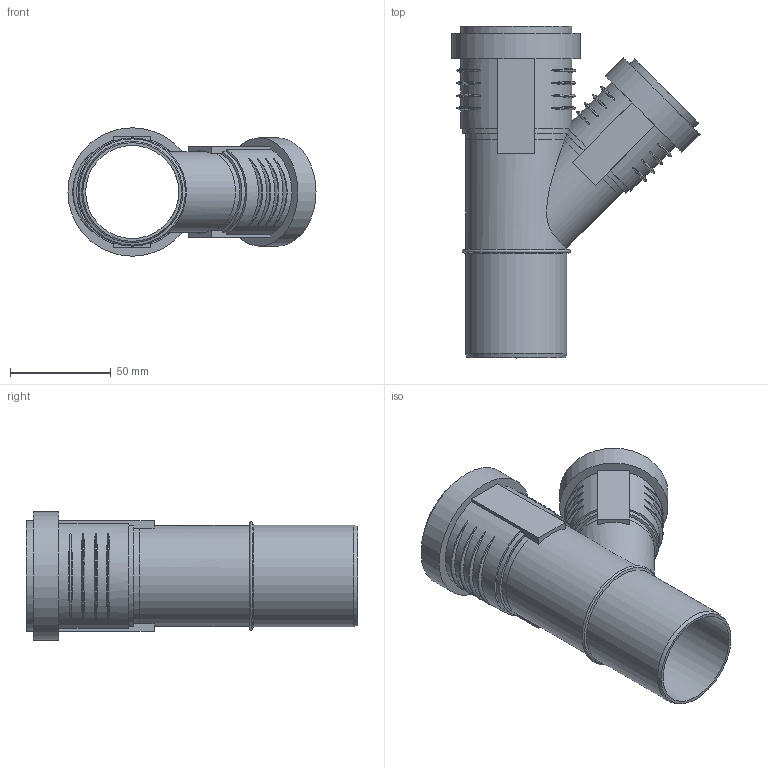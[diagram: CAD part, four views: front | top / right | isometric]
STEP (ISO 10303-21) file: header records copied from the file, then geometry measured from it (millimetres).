
FILE_DESCRIPTION(/* description */ (''),/* implementation_level */ '2;1');
FILE_NAME(/* name */ 'Z:\Geberit\Export\NewStep\390231.stp',/* time_stamp */ '2014-04-02T08:10:23+02:00',/* author */ ('ML'),/* organization */ (''),/* preprocessor_version */ 'ST-DEVELOPER v15.2',/* originating_system */ 'Autodesk Inventor 2014',/* authorisation */ '');
FILE_SCHEMA (('AUTOMOTIVE_DESIGN { 1 0 10303 214 3 1 1 }'));
Length unit declared in the file: millimetre
Products named in the file (4): 861337; 861400; 861401; 390231
Bounding box: 122.92 x 164.45 x 63.7 mm (x, y, z)
Volume: 82128.3 mm3; surface area: 82904.5 mm2
Topology: 3 solids, 3 shells, 125 faces, 309 edges, 215 vertices
Faces by surface type: torus 50, plane 37, cylinder 33, cone 5
Full cylindrical faces by diameter (mm): 36.15 x2, 40.15 x2, 41 x2, 45 x1, 46.15 x2, 49.7 x1, 50.15 x3, 51 x2, 53.7 x1, 55 x1, 59.7 x1, 63.7 x1
Entity records: 4961 total; most frequent: CARTESIAN_POINT 2028, ORIENTED_EDGE 542, DIRECTION 532, EDGE_CURVE 271, AXIS2_PLACEMENT_3D 230, VERTEX_POINT 204, EDGE_LOOP 185, STYLED_ITEM 126
